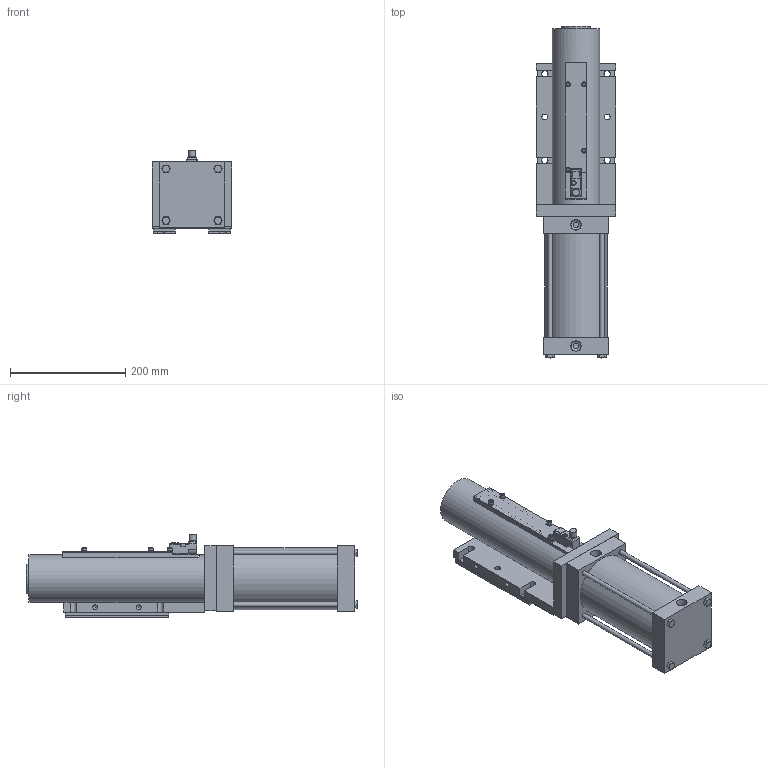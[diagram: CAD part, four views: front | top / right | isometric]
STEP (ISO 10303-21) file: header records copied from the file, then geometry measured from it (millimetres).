
FILE_DESCRIPTION(/* description */ (''),/* implementation_level */ '2;1');
FILE_NAME(/* name */ 'C:\TEMP\HP5 Bull Pins\HP5-P100VE000.stp',/* time_stamp */ '2016-01-20T07:21:40-05:00',/* author */ ('klabrecque'),/* organization */ (''),/* preprocessor_version */ 'ST-DEVELOPER v15.2',/* originating_system */ 'Autodesk Inventor 2014',/* authorisation */ '');
FILE_SCHEMA (('AUTOMOTIVE_DESIGN { 1 0 10303 214 3 1 1 }'));
Length unit declared in the file: millimetre
Products named in the file (17): HP5E01; HP5E04; HP5E05; S01674E03; S01674E04; S01674E02; 0.313-24X10.000 HEX; HP5E03; M4X0.7-10 SHCS; HP5E14; HP5E10; M5X0.8-10 SHCS; M5X0.8-25 SHCS; NL5; WORLD-SWITCH-BODY_PF; 6950160; HP5-P100VE000
Bounding box: 138 x 575.18 x 145.27 mm (x, y, z)
Volume: 3774616.5 mm3; surface area: 793448.3 mm2
Topology: 42 solids, 42 shells, 734 faces, 1653 edges, 1070 vertices
Faces by surface type: plane 403, cylinder 215, cone 102, sphere 6, torus 4, bspline 4
Full cylindrical faces by diameter (mm): 2 x2, 3.242 x8, 4 x13, 4.134 x14, 4.5 x6, 4.917 x4, 5 x5, 5.3 x1, 5.4 x4, 5.5 x4, 6 x1, 6.35 x2, 6.647 x1, 6.782 x4, 7 x12, 7.938 x4, 8 x6, 8.376 x4, 8.5 x13, 9 x4, 10 x6, 11 x7, 11.43 x4, 12 x1, 17.475 x2, 28 x1, 28.575 x1, 38 x1, 50 x1, 50.85 x2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
Entity records: 13039 total; most frequent: CARTESIAN_POINT 2754, DIRECTION 2134, ORIENTED_EDGE 1670, AXIS2_PLACEMENT_3D 850, EDGE_CURVE 835, EDGE_LOOP 756, VERTEX_POINT 631, ADVANCED_FACE 450
